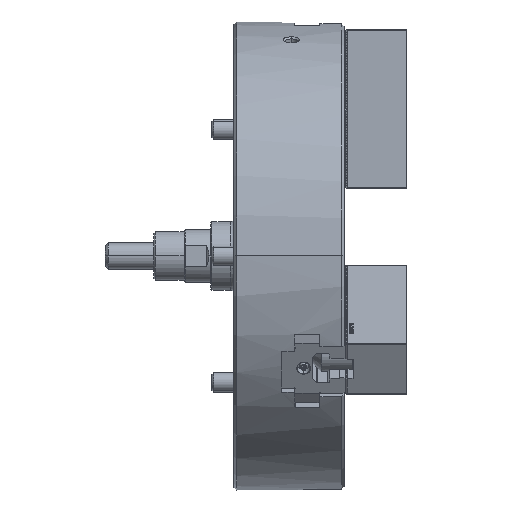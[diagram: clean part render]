
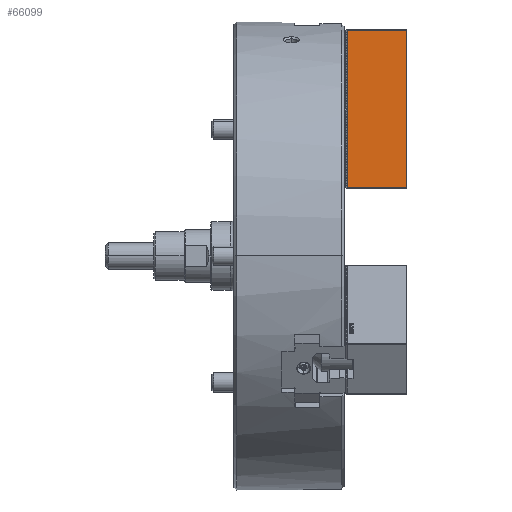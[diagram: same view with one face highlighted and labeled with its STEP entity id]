
A CAD part, top view. The second image highlights one B-rep face of the part: STEP entity #66099.
In plain terms, the highlighted planar face has unit normal (0, 0, 1).
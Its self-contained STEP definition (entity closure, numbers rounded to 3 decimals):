
#10673 = VERTEX_POINT ( 'NONE', #46780 ) ;
#15626 = PLANE ( 'NONE',  #141703 ) ;
#24347 = DIRECTION ( 'NONE',  ( 0., -1., 0. ) ) ;
#27589 = VECTOR ( 'NONE', #193548, 1000. ) ;
#29597 = EDGE_CURVE ( 'NONE', #217242, #204548, #129977, .T. ) ;
#46780 = CARTESIAN_POINT ( 'NONE',  ( 69.4, 0.6, 32.5 ) ) ;
#58251 = LINE ( 'NONE', #198713, #165209 ) ;
#63756 = ORIENTED_EDGE ( 'NONE', *, *, #134605, .T. ) ;
#66099 = ADVANCED_FACE ( 'NONE', ( #189842 ), #15626, .F. ) ;
#77884 = VERTEX_POINT ( 'NONE', #196754 ) ;
#81962 = CARTESIAN_POINT ( 'NONE',  ( 2.5, 179.4, 32.5 ) ) ;
#83066 = DIRECTION ( 'NONE',  ( -1., 0., 0. ) ) ;
#91433 = ORIENTED_EDGE ( 'NONE', *, *, #170886, .T. ) ;
#99942 = ORIENTED_EDGE ( 'NONE', *, *, #226830, .F. ) ;
#107540 = LINE ( 'NONE', #210926, #27589 ) ;
#108528 = CARTESIAN_POINT ( 'NONE',  ( 2.5, 0.6, 32.5 ) ) ;
#113654 = LINE ( 'NONE', #150829, #181417 ) ;
#124174 = VECTOR ( 'NONE', #24347, 1000. ) ;
#129977 = LINE ( 'NONE', #184535, #124174 ) ;
#131107 = DIRECTION ( 'NONE',  ( -1., 0., 0. ) ) ;
#134605 = EDGE_CURVE ( 'NONE', #77884, #217242, #58251, .T. ) ;
#141703 = AXIS2_PLACEMENT_3D ( 'NONE', #208356, #207214, #83066 ) ;
#144031 = EDGE_LOOP ( 'NONE', ( #99942, #91433, #63756, #164838 ) ) ;
#150829 = CARTESIAN_POINT ( 'NONE',  ( 70., 0.6, 32.5 ) ) ;
#164838 = ORIENTED_EDGE ( 'NONE', *, *, #29597, .T. ) ;
#165209 = VECTOR ( 'NONE', #219549, 1000. ) ;
#170886 = EDGE_CURVE ( 'NONE', #10673, #77884, #107540, .T. ) ;
#181417 = VECTOR ( 'NONE', #131107, 1000. ) ;
#184535 = CARTESIAN_POINT ( 'NONE',  ( 2.5, 180., 32.5 ) ) ;
#189842 = FACE_OUTER_BOUND ( 'NONE', #144031, .T. ) ;
#193548 = DIRECTION ( 'NONE',  ( 0., 1., 0. ) ) ;
#196754 = CARTESIAN_POINT ( 'NONE',  ( 69.4, 179.4, 32.5 ) ) ;
#198713 = CARTESIAN_POINT ( 'NONE',  ( 70., 179.4, 32.5 ) ) ;
#204548 = VERTEX_POINT ( 'NONE', #108528 ) ;
#207214 = DIRECTION ( 'NONE',  ( 0., 0., -1. ) ) ;
#208356 = CARTESIAN_POINT ( 'NONE',  ( 70., 0.6, 32.5 ) ) ;
#210926 = CARTESIAN_POINT ( 'NONE',  ( 69.4, 0.6, 32.5 ) ) ;
#217242 = VERTEX_POINT ( 'NONE', #81962 ) ;
#219549 = DIRECTION ( 'NONE',  ( -1., 0., 0. ) ) ;
#226830 = EDGE_CURVE ( 'NONE', #10673, #204548, #113654, .T. ) ;
